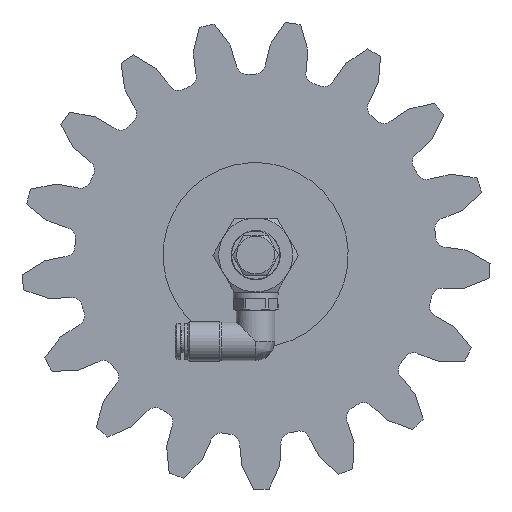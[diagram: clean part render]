
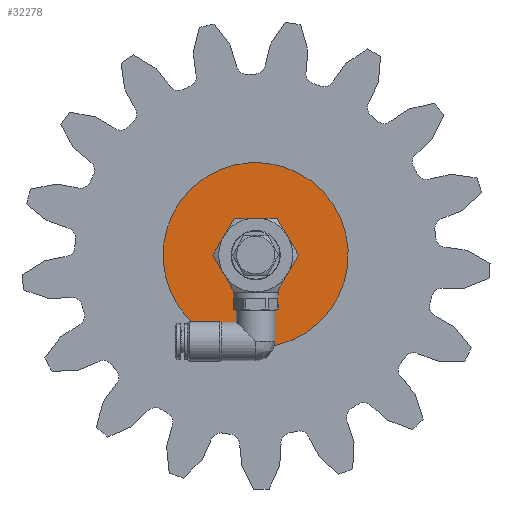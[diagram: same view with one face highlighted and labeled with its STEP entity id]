
A CAD part, front view. The second image highlights one B-rep face of the part: STEP entity #32278.
In plain terms, the highlighted planar face has unit normal (0, -1, 0) as drawn and (0, 0, 1) by its records, which use the part's own axes.
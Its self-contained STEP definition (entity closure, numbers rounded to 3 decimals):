
#2771 = EDGE_LOOP ( 'NONE', ( #22009 ) ) ;
#3250 = EDGE_CURVE ( 'NONE', #15866, #15866, #29463, .T. ) ;
#4880 = DIRECTION ( 'NONE',  ( 1., 0., 0. ) ) ;
#5384 = CARTESIAN_POINT ( 'NONE',  ( 0., 0., 0. ) ) ;
#6550 = AXIS2_PLACEMENT_3D ( 'NONE', #16088, #33789, #34278 ) ;
#6882 = DIRECTION ( 'NONE',  ( 0., 0., 1. ) ) ;
#10022 = ORIENTED_EDGE ( 'NONE', *, *, #3250, .T. ) ;
#12183 = CARTESIAN_POINT ( 'NONE',  ( 30., 0., 0. ) ) ;
#13638 = CARTESIAN_POINT ( 'NONE',  ( 5.286, 0., 0. ) ) ;
#15866 = VERTEX_POINT ( 'NONE', #12183 ) ;
#16088 = CARTESIAN_POINT ( 'NONE',  ( 0., 30., 0. ) ) ;
#19262 = FACE_BOUND ( 'NONE', #2771, .T. ) ;
#21415 = CIRCLE ( 'NONE', #33179, 5.286 ) ;
#22009 = ORIENTED_EDGE ( 'NONE', *, *, #31388, .F. ) ;
#22960 = FACE_OUTER_BOUND ( 'NONE', #27372, .T. ) ;
#27372 = EDGE_LOOP ( 'NONE', ( #10022 ) ) ;
#29463 = CIRCLE ( 'NONE', #34961, 30. ) ;
#31388 = EDGE_CURVE ( 'NONE', #36013, #36013, #21415, .T. ) ;
#32278 = ADVANCED_FACE ( 'NONE', ( #19262, #22960 ), #34515, .F. ) ;
#32710 = CARTESIAN_POINT ( 'NONE',  ( 0., 0., 0. ) ) ;
#33179 = AXIS2_PLACEMENT_3D ( 'NONE', #32710, #6882, #48212 ) ;
#33789 = DIRECTION ( 'NONE',  ( 0., 0., -1. ) ) ;
#34278 = DIRECTION ( 'NONE',  ( -1., 0., 0. ) ) ;
#34515 = PLANE ( 'NONE',  #6550 ) ;
#34961 = AXIS2_PLACEMENT_3D ( 'NONE', #5384, #45988, #4880 ) ;
#36013 = VERTEX_POINT ( 'NONE', #13638 ) ;
#45988 = DIRECTION ( 'NONE',  ( 0., 0., 1. ) ) ;
#48212 = DIRECTION ( 'NONE',  ( 1., 0., 0. ) ) ;
